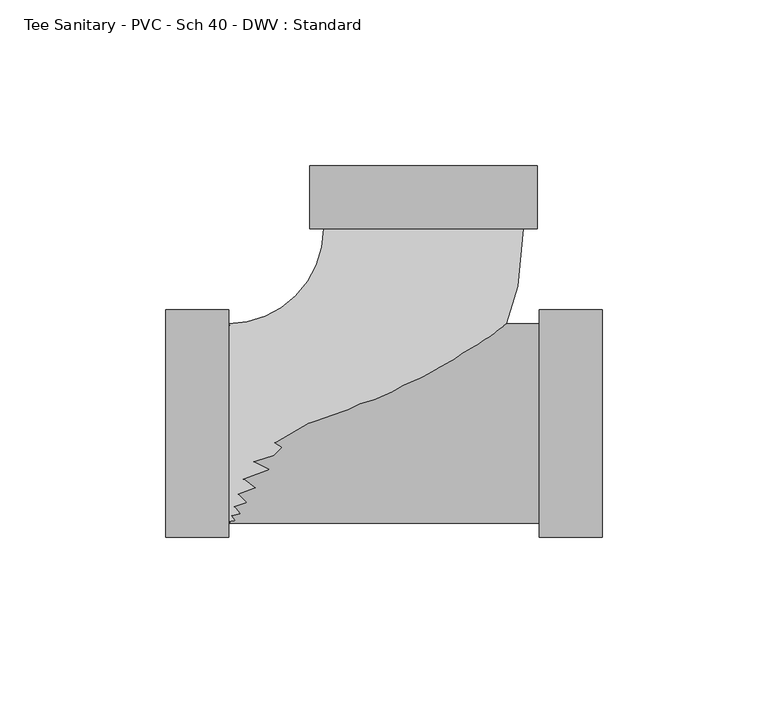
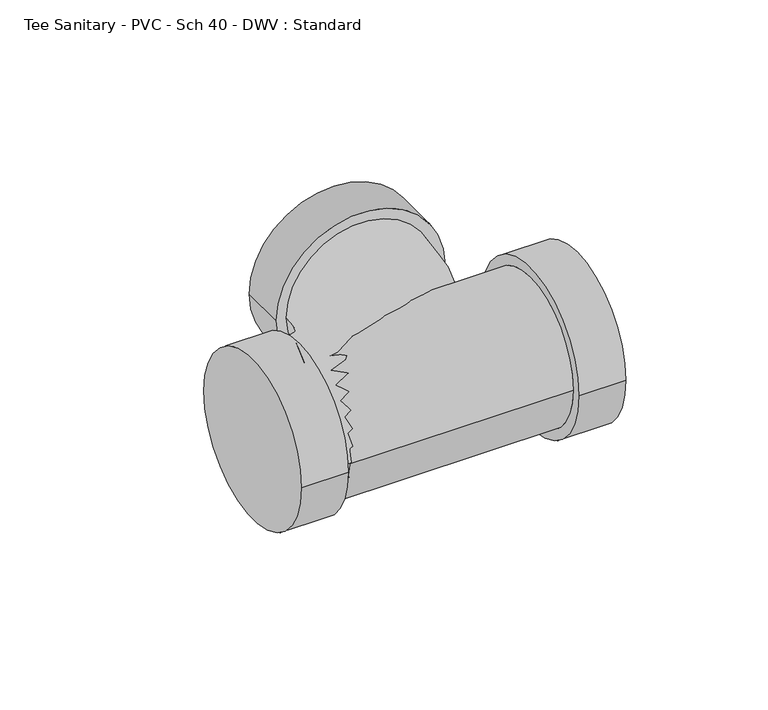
"""IFC4 building model written with IfcOpenShell, lengths in millimetres: pipe fitting geometry, Tee Sanitary - PVC - Sch 40 - DWV : Standard."""

from ifc_helpers import new_model, si_unit, point, frame, origin, place, context, project, spatial, circle_curve, ellipse_curve, trimmed, source, transform, mapped, element, save
from ifc_brep_helpers import plane_surface, cylinder_surface, revolved_surface, advanced_brep


def tee_sanitary_pvc_sch_40_dwv_standard_32d7fc6d(model_context):
    return source(origin(), model_context, "Body", "AdvancedBrep", [
        advanced_brep(
        [(-58.7502, 30.1625, 0.0), (-58.7502, -30.1625, 0.0), (30.1625, 58.7502, 0.0), (-30.1625, 58.7502, 0.0), (34.3154, 77.8002, 0.0), (-34.3154, 77.8002, 0.0), (34.3154, 58.7502, 0.0), (-34.3154, 58.7502, 0.0)],
        [
            (0, 1, circle_curve(frame((-58.7502, 0.0, 0.0), z_axis=(-1.0, 0.0, 0.0), x_axis=(0.0, -1.0, 0.0)), 30.1625)),
            (1, 0, circle_curve(frame((-58.7502, 0.0, 0.0), z_axis=(-1.0, 0.0, 0.0), x_axis=(0.0, -1.0, 0.0)), 30.1625)),
            (1, 2, circle_curve(frame((-58.7502, 58.7502, 0.0), z_axis=(0.0, 0.0, 1.0), x_axis=(0.0, -1.0, 0.0)), 88.9127)),
            (2, 3, circle_curve(frame((0.0, 58.7502, 0.0), z_axis=(0.0, -1.0, 0.0), x_axis=(1.0, 0.0, 0.0)), 30.1625)),
            (3, 0, circle_curve(frame((-58.7502, 58.7502, 0.0), z_axis=(0.0, 0.0, -1.0), x_axis=(0.0, -1.0, 0.0)), 28.5877)),
            (3, 2, circle_curve(frame((0.0, 58.7502, 0.0), z_axis=(0.0, -1.0, 0.0), x_axis=(1.0, 0.0, 0.0)), 30.1625)),
            (4, 5, circle_curve(frame((0.0, 77.8002, 0.0), z_axis=(0.0, 1.0, 0.0), x_axis=(-1.0, 0.0, 0.0)), 34.3154)),
            (5, 4, circle_curve(frame((0.0, 77.8002, 0.0), z_axis=(0.0, 1.0, 0.0), x_axis=(-1.0, 0.0, 0.0)), 34.3154)),
            (6, 7, circle_curve(frame((0.0, 58.7502, 0.0), z_axis=(0.0, -1.0, 0.0), x_axis=(-1.0, 0.0, 0.0)), 34.3154)),
            (7, 6, circle_curve(frame((0.0, 58.7502, 0.0), z_axis=(0.0, -1.0, 0.0), x_axis=(-1.0, 0.0, 0.0)), 34.3154)),
            (5, 7),
            (6, 4),
        ],
        [
            plane_surface(frame((-58.7502, 0.0, 0.0), z_axis=(-1.0, 0.0, 0.0), x_axis=(0.0, 0.0, 1.0))),
            revolved_surface(trimmed(ellipse_curve(frame((-58.7502, 0.0, 0.0), z_axis=(1.0, 0.0, 0.0), x_axis=(0.0, -1.0, 0.0)), 30.1625, 30.1625), [point((-58.7502, 30.1625, 0.0))], [point((-58.7502, -30.1625, 0.0))], True, "CARTESIAN"), (-58.7502, 58.7502, 0.0), (0.0, 0.0, -1.0)),
            revolved_surface(trimmed(ellipse_curve(frame((-58.7502, 0.0, 0.0), z_axis=(1.0, 0.0, 0.0), x_axis=(0.0, -1.0, 0.0)), 30.1625, 30.1625), [point((-58.7502, -30.1625, 0.0))], [point((-58.7502, 30.1625, 0.0))], True, "CARTESIAN"), (-58.7502, 58.7502, 0.0), (0.0, 0.0, -1.0)),
            plane_surface(frame((0.0, 77.8002, 0.0), z_axis=(0.0, 1.0, 0.0), x_axis=(0.0, 0.0, 1.0))),
            plane_surface(frame((0.0, 58.7502, 0.0), z_axis=(0.0, -1.0, 0.0), x_axis=(0.0, 0.0, 1.0))),
            cylinder_surface(frame((0.0, 77.8002, 0.0), z_axis=(0.0, 1.0, 0.0), x_axis=(-1.0, 0.0, 0.0)), 34.3154),
        ],
        [
            (0, [[1, 2]]),
            (1, [[3, 4, 5, -2]]),
            (2, [[-5, 6, -3, -1]]),
            (3, [[7, 8]]),
            (4, [[9, 10], [-6, -4]]),
            (5, [[11, -9, 12, -8]]),
            (5, [[-12, -10, -11, -7]]),
        ],
    ),
        advanced_brep(
        [(-58.7502, 30.1625, 0.0), (-58.7502, -30.1625, 0.0), (34.925, -30.1625, 0.0), (34.925, 30.1625, 0.0), (34.925, 34.3154, 0.0), (34.925, -34.3154, 0.0), (53.975, 34.3154, 0.0), (53.975, -34.3154, 0.0), (-77.8002, 34.3154, 0.0), (-77.8002, -34.3154, 0.0), (-58.7502, 34.3154, 0.0), (-58.7502, -34.3154, 0.0)],
        [
            (0, 1, circle_curve(frame((-58.7502, 0.0, 0.0), z_axis=(1.0, 0.0, 0.0), x_axis=(0.0, -1.0, 0.0)), 30.1625)),
            (1, 2),
            (2, 3, circle_curve(frame((34.925, 0.0, 0.0), z_axis=(-1.0, 0.0, 0.0), x_axis=(0.0, -1.0, 0.0)), 30.1625)),
            (3, 0),
            (3, 2, circle_curve(frame((34.925, 0.0, 0.0), z_axis=(-1.0, 0.0, 0.0), x_axis=(0.0, -1.0, 0.0)), 30.1625)),
            (1, 0, circle_curve(frame((-58.7502, 0.0, 0.0), z_axis=(1.0, 0.0, 0.0), x_axis=(0.0, -1.0, 0.0)), 30.1625)),
            (4, 5, circle_curve(frame((34.925, 0.0, 0.0), z_axis=(-1.0, 0.0, 0.0), x_axis=(0.0, -1.0, 0.0)), 34.3154)),
            (5, 4, circle_curve(frame((34.925, 0.0, 0.0), z_axis=(-1.0, 0.0, 0.0), x_axis=(0.0, -1.0, 0.0)), 34.3154)),
            (6, 7, circle_curve(frame((53.975, 0.0, 0.0), z_axis=(1.0, 0.0, 0.0), x_axis=(0.0, -1.0, 0.0)), 34.3154)),
            (7, 6, circle_curve(frame((53.975, 0.0, 0.0), z_axis=(1.0, 0.0, 0.0), x_axis=(0.0, -1.0, 0.0)), 34.3154)),
            (5, 7),
            (6, 4),
            (8, 9, circle_curve(frame((-77.8002, 0.0, 0.0), z_axis=(-1.0, 0.0, 0.0), x_axis=(0.0, -1.0, 0.0)), 34.3154)),
            (9, 8, circle_curve(frame((-77.8002, 0.0, 0.0), z_axis=(-1.0, 0.0, 0.0), x_axis=(0.0, -1.0, 0.0)), 34.3154)),
            (10, 11, circle_curve(frame((-58.7502, 0.0, 0.0), z_axis=(1.0, 0.0, 0.0), x_axis=(0.0, -1.0, 0.0)), 34.3154)),
            (11, 10, circle_curve(frame((-58.7502, 0.0, 0.0), z_axis=(1.0, 0.0, 0.0), x_axis=(0.0, -1.0, 0.0)), 34.3154)),
            (9, 11),
            (10, 8),
        ],
        [
            cylinder_surface(frame((-58.7502, 0.0, 0.0), z_axis=(-1.0, 0.0, 0.0), x_axis=(0.0, -1.0, 0.0)), 30.1625),
            plane_surface(frame((34.925, 0.0, 0.0), z_axis=(-1.0, 0.0, 0.0), x_axis=(0.0, 0.0, 1.0))),
            plane_surface(frame((53.975, 0.0, 0.0), z_axis=(1.0, 0.0, 0.0), x_axis=(0.0, 0.0, 1.0))),
            cylinder_surface(frame((34.925, 0.0, 0.0), z_axis=(-1.0, 0.0, 0.0), x_axis=(0.0, -1.0, 0.0)), 34.3154),
            plane_surface(frame((-77.8002, 0.0, 0.0), z_axis=(-1.0, 0.0, 0.0), x_axis=(0.0, 0.0, 1.0))),
            plane_surface(frame((-58.7502, 0.0, 0.0), z_axis=(1.0, 0.0, 0.0), x_axis=(0.0, 0.0, 1.0))),
            cylinder_surface(frame((-77.8002, 0.0, 0.0), z_axis=(-1.0, 0.0, 0.0), x_axis=(0.0, -1.0, 0.0)), 34.3154),
        ],
        [
            (0, [[1, 2, 3, 4]]),
            (0, [[5, -2, 6, -4]]),
            (1, [[7, 8], [-5, -3]]),
            (2, [[9, 10]]),
            (3, [[11, -9, 12, -8]]),
            (3, [[-12, -10, -11, -7]]),
            (4, [[13, 14]]),
            (5, [[15, 16], [-6, -1]]),
            (6, [[17, -15, 18, -14]]),
            (6, [[-18, -16, -17, -13]]),
        ],
    ),
    ])


if __name__ == "__main__":
    model = new_model("IFC4")
    model_context = context("Model", 3, world=origin())
    ifc_project = project(units=[si_unit("LENGTHUNIT", "METRE", prefix="MILLI")], contexts=[model_context])
    site = spatial("IfcSite", under=ifc_project)
    building = spatial("IfcBuilding", under=site)
    placement = place(None, origin())
    tee_sanitary_pvc_sch_40_dwv_standard_shape = tee_sanitary_pvc_sch_40_dwv_standard_32d7fc6d(model_context)
    element("IfcPipeFitting", 1, ObjectType="Tee Sanitary - PVC - Sch 40 - DWV : Standard", at=placement, inside=building, context=model_context, shape_type="MappedRepresentation", body=[
        mapped(tee_sanitary_pvc_sch_40_dwv_standard_shape, transform((0.0, 0.0, 0.0), x_axis=(1.0, 0.0, 0.0), y_axis=(0.0, 1.0, 0.0), z_axis=(0.0, 0.0, 1.0))),
    ])
    save(model, "model.ifc")
